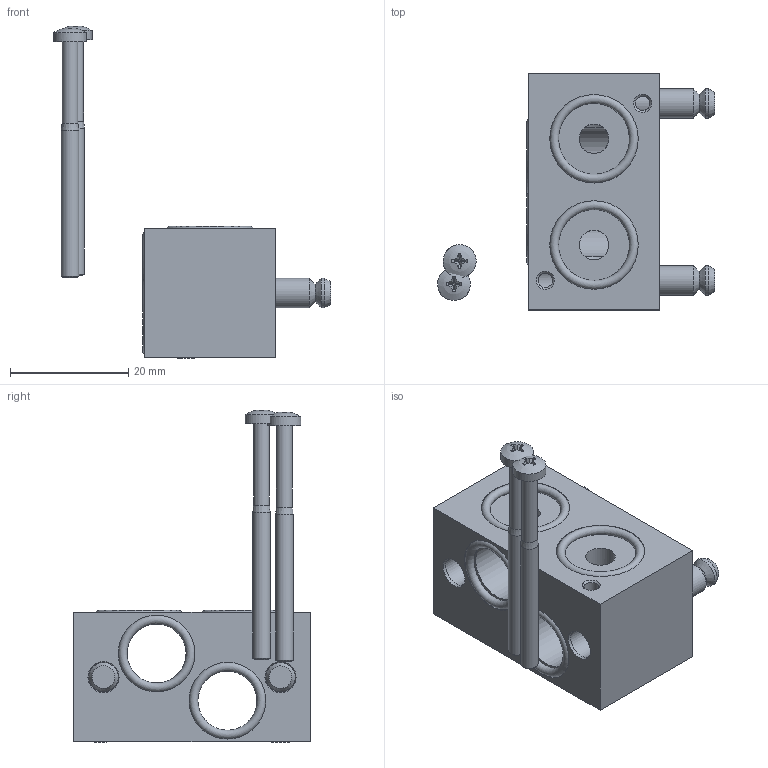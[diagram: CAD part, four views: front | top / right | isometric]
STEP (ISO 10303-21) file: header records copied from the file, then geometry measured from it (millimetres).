
FILE_DESCRIPTION( ( 'Unknown' ), '1' );
FILE_NAME( 'Q:/Solid Edge ST4/STEP/R 3 503 G.stp', 'Unknown', ( 'Unknown' ), ( 'Unknown' ), 'PSStep 17.0.49', 'Unknown', ' ' );
FILE_SCHEMA( ( 'AUTOMOTIVE_DESIGN { 1 0 10303 214 1 1 1 1 }' ) );
Length unit declared in the file: millimetre
Products named in the file (7): Assem1; AR 3 503 G; BO 18 05; O-Ring 10x1,5 NBR70; O-Ring 12x1,5 NBR70; DIN914-A2-M5X6; DIN7985-H-A2-M3x40
Assembly tree (11 placements, depth 2):
  Assem1
    AR 3 503 G
    BO 18 05  x2
    O-Ring 10x1,5 NBR70  x2
    O-Ring 12x1,5 NBR70  x2
    DIN914-A2-M5X6  x2
    DIN7985-H-A2-M3x40  x2
Bounding box: 46.95 x 40 x 56.27 mm (x, y, z)
Volume: 15782.3 mm3; surface area: 9251.7 mm2
Topology: 11 solids, 11 shells, 138 faces, 304 edges, 184 vertices
Faces by surface type: plane 74, cone 30, cylinder 28, torus 4, sphere 2
Full cylindrical faces by diameter (mm): 2.459 x4, 2.693 x2, 3 x2, 4.134 x2, 5 x10, 5.6 x2, 10 x2, 13 x2, 15 x2
Entity records: 3678 total; most frequent: CARTESIAN_POINT 733, DIRECTION 382, ORIENTED_EDGE 262, PRESENTATION_STYLE_ASSIGNMENT 177, COLOUR_RGB 177, AXIS2_PLACEMENT_3D 172, EDGE_LOOP 151, STYLED_ITEM 137
